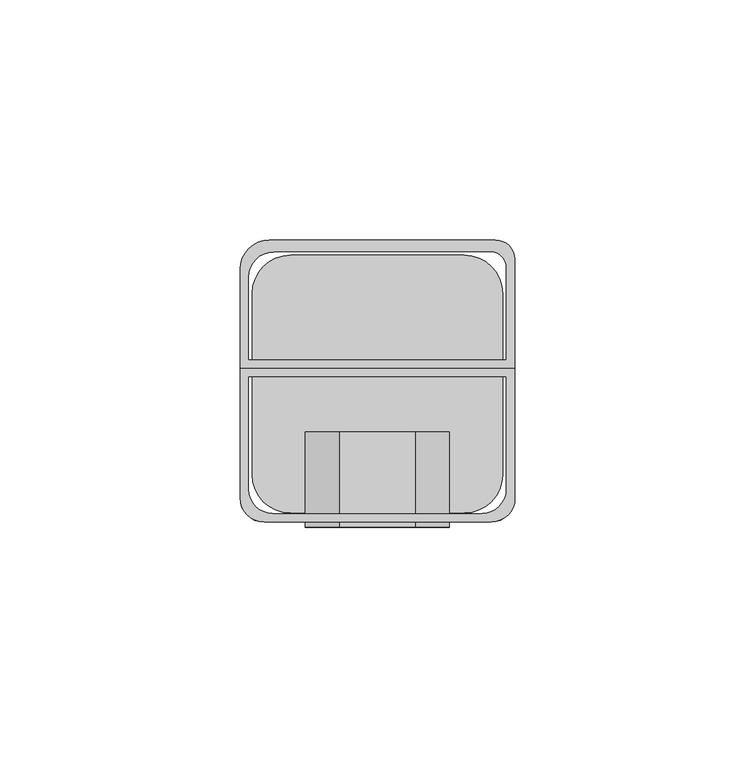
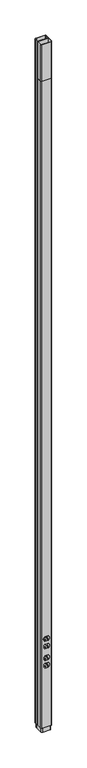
"""IFC4 building model written with IfcOpenShell, lengths in millimetres: proxy geometry, Tele-Power_Poles-Wiremold-Aluminum_Tele-Power_Pole : AMDTP-412 - Aluminum."""

from ifc_helpers import new_model, si_unit, point, frame, frame_2d, origin, origin_with_axes, place, context, project, spatial, polyline, circle_curve, trimmed, segment, composite_curve, outline, extrude, source, transform, mapped, element, save


def electrical_fixtures_7f244660(model_context):
    return source(origin(), model_context, "Body", "SweptSolid", [
        extrude(outline(composite_curve([segment(trimmed(circle_curve(frame_2d((383.1489583, -1.066293)), 13.933707), [point((395.2960251, -7.8924893))], [point((383.1489583, -15.0))], False, "CARTESIAN"), True, "CONTINUOUS"), segment(polyline([(383.1489583, -15.0), (381.2314332, -15.0)]), True, "CONTINUOUS"), segment(trimmed(circle_curve(frame_2d((381.2314332, -0.8980964)), 14.1019036), [point((381.2314332, -15.0))], [point((369.2960251, -8.4087368))], False, "CARTESIAN"), True, "CONTINUOUS"), segment(polyline([(369.2960251, -8.4087368), (369.2960251, 8.5219574)]), True, "CONTINUOUS"), segment(trimmed(circle_curve(frame_2d((381.1036564, 1.0)), 14.0), [point((369.2960251, 8.5219574))], [point((381.1036564, 15.0))], False, "CARTESIAN"), True, "CONTINUOUS"), segment(polyline([(381.1036564, 15.0), (383.1911595, 15.0)]), True, "CONTINUOUS"), segment(trimmed(circle_curve(frame_2d((383.1911595, 1.0137234)), 13.9862766), [point((383.1911595, 15.0))], [point((395.2960251, 8.0200178))], False, "CARTESIAN"), True, "CONTINUOUS"), segment(polyline([(395.2960251, 8.0200178), (395.2960251, -7.8924893)]), True, "CONTINUOUS")], self_intersect=False), holes=[polyline([(381.4352273, -5.4971077), (373.4977273, -5.4971077), (373.4977273, -7.0864631), (381.4352273, -7.0864631), (381.4352273, -5.4971077)]), polyline([(374.2914773, 5.3273064), (380.6414773, 5.3273064), (380.6414773, 6.9135369), (374.2914773, 6.9135369), (374.2914773, 5.3273064)]), composite_curve([segment(polyline([(391.8789773, 2.2744253), (388.7039773, 2.2744253)]), True, "CONTINUOUS"), segment(trimmed(circle_curve(frame_2d((388.7039773, -0.1068247)), 2.38125), [point((388.7039773, 2.2744253))], [point((388.7039773, -2.4880747))], True, "CARTESIAN"), True, "CONTINUOUS"), segment(polyline([(388.7039773, -2.4880747), (391.8789773, -2.4880747), (391.8789773, 2.2744253)]), True, "CONTINUOUS")], self_intersect=False)]), frame((0.0, -29.86875, 0.0), z_axis=(0.0, 1.0, 0.0), x_axis=(0.0, 0.0, 1.0)), (0.0, 0.0, 1.0), 19.8625),
        extrude(outline(composite_curve([segment(polyline([(353.4960251, 8.7277208), (353.4960251, -8.6182874)]), True, "CONTINUOUS"), segment(trimmed(circle_curve(frame_2d((341.791413, -1.0755089)), 13.9244911), [point((353.4960251, -8.6182874))], [point((341.791413, -15.0))], False, "CARTESIAN"), True, "CONTINUOUS"), segment(polyline([(341.791413, -15.0), (339.8667378, -15.0)]), True, "CONTINUOUS"), segment(trimmed(circle_curve(frame_2d((339.8667378, -0.8892045)), 14.1107955), [point((339.8667378, -15.0))], [point((327.4960251, -7.6774309))], False, "CARTESIAN"), True, "CONTINUOUS"), segment(polyline([(327.4960251, -7.6774309), (327.4960251, 7.7995466)]), True, "CONTINUOUS"), segment(trimmed(circle_curve(frame_2d((339.7391341, 0.9911428)), 14.0088572), [point((327.4960251, 7.7995466))], [point((339.7391341, 15.0))], False, "CARTESIAN"), True, "CONTINUOUS"), segment(polyline([(339.7391341, 15.0), (341.8335943, 15.0)]), True, "CONTINUOUS"), segment(trimmed(circle_curve(frame_2d((341.8335943, 1.0215264)), 13.9784736), [point((341.8335943, 15.0))], [point((353.4960251, 8.7277208))], False, "CARTESIAN"), True, "CONTINUOUS")], self_intersect=False), holes=[polyline([(340.0352273, -5.6609185), (332.0977273, -5.6609185), (332.0977273, -7.2502739), (340.0352273, -7.2502739), (340.0352273, -5.6609185)]), polyline([(332.8914773, 5.3273064), (339.2414773, 5.3273064), (339.2414773, 6.9135369), (332.8914773, 6.9135369), (332.8914773, 5.3273064)]), composite_curve([segment(polyline([(350.4789773, 2.2744253), (347.3039773, 2.2744253)]), True, "CONTINUOUS"), segment(trimmed(circle_curve(frame_2d((347.3039773, -0.1068247)), 2.38125), [point((347.3039773, 2.2744253))], [point((347.3039773, -2.4880747))], True, "CARTESIAN"), True, "CONTINUOUS"), segment(polyline([(347.3039773, -2.4880747), (350.4789773, -2.4880747), (350.4789773, 2.2744253)]), True, "CONTINUOUS")], self_intersect=False)]), frame((0.0, -29.86875, 0.0), z_axis=(0.0, 1.0, 0.0), x_axis=(0.0, 0.0, 1.0)), (0.0, 0.0, 1.0), 19.8625),
        extrude(outline(composite_curve([segment(polyline([(28.575, 2.63125), (28.575, -25.36875)]), True, "CONTINUOUS"), segment(trimmed(circle_curve(frame_2d((23.6760205, -24.36875)), 5.0), [point((28.575, -25.36875))], [point((23.6760205, -29.36875))], False, "CARTESIAN"), True, "CONTINUOUS"), segment(polyline([(23.6760205, -29.36875), (-23.575, -29.36875)]), True, "CONTINUOUS"), segment(trimmed(circle_curve(frame_2d((-23.575, -24.36875)), 5.0), [point((-23.575, -29.36875))], [point((-28.575, -24.36875))], False, "CARTESIAN"), True, "CONTINUOUS"), segment(polyline([(-28.575, -24.36875), (-28.575, 2.63125), (28.575, 2.63125)]), True, "CONTINUOUS")], self_intersect=False), holes=[composite_curve([segment(polyline([(-26.775, 0.83125), (-26.775, -22.56875)]), True, "CONTINUOUS"), segment(trimmed(circle_curve(frame_2d((-21.775, -22.56875)), 5.0), [point((-26.775, -22.56875))], [point((-21.775, -27.56875))], True, "CARTESIAN"), True, "CONTINUOUS"), segment(polyline([(-21.775, -27.56875), (21.775, -27.56875)]), True, "CONTINUOUS"), segment(trimmed(circle_curve(frame_2d((21.775, -22.56875)), 5.0), [point((21.775, -27.56875))], [point((26.775, -22.56875))], True, "CARTESIAN"), True, "CONTINUOUS"), segment(polyline([(26.775, -22.56875), (26.775, 0.83125), (-26.775, 0.83125)]), True, "CONTINUOUS")], self_intersect=False)]), frame((0.0, 0.0, 3581.4), z_axis=(0.0, 0.0, 1.0), x_axis=(1.0, 0.0, 0.0)), (0.0, 0.0, 1.0), 203.2),
        extrude(outline(composite_curve([segment(polyline([(28.575, 2.63125), (28.575, -25.36875)]), True, "CONTINUOUS"), segment(trimmed(circle_curve(frame_2d((23.6760205, -24.36875)), 5.0), [point((28.575, -25.36875))], [point((23.6760205, -29.36875))], False, "CARTESIAN"), True, "CONTINUOUS"), segment(polyline([(23.6760205, -29.36875), (-23.575, -29.36875)]), True, "CONTINUOUS"), segment(trimmed(circle_curve(frame_2d((-23.575, -24.36875)), 5.0), [point((-23.575, -29.36875))], [point((-28.575, -24.36875))], False, "CARTESIAN"), True, "CONTINUOUS"), segment(polyline([(-28.575, -24.36875), (-28.575, 2.63125), (28.575, 2.63125)]), True, "CONTINUOUS")], self_intersect=False), holes=[composite_curve([segment(polyline([(-26.775, 0.83125), (-26.775, -22.56875)]), True, "CONTINUOUS"), segment(trimmed(circle_curve(frame_2d((-21.775, -22.56875)), 5.0), [point((-26.775, -22.56875))], [point((-21.775, -27.56875))], True, "CARTESIAN"), True, "CONTINUOUS"), segment(polyline([(-21.775, -27.56875), (21.775, -27.56875)]), True, "CONTINUOUS"), segment(trimmed(circle_curve(frame_2d((21.775, -22.56875)), 5.0), [point((21.775, -27.56875))], [point((26.775, -22.56875))], True, "CARTESIAN"), True, "CONTINUOUS"), segment(polyline([(26.775, -22.56875), (26.775, 0.83125), (-26.775, 0.83125)]), True, "CONTINUOUS")], self_intersect=False)]), origin_with_axes(), (0.0, 0.0, 1.0), 3581.4),
        extrude(outline(composite_curve([segment(trimmed(circle_curve(frame_2d((488.7029331, -1.066293)), 13.933707), [point((500.85, -7.8924893))], [point((488.7029331, -15.0))], False, "CARTESIAN"), True, "CONTINUOUS"), segment(polyline([(488.7029331, -15.0), (486.7854081, -15.0)]), True, "CONTINUOUS"), segment(trimmed(circle_curve(frame_2d((486.7854081, -0.8980964)), 14.1019036), [point((486.7854081, -15.0))], [point((474.85, -8.4087368))], False, "CARTESIAN"), True, "CONTINUOUS"), segment(polyline([(474.85, -8.4087368), (474.85, 8.5219574)]), True, "CONTINUOUS"), segment(trimmed(circle_curve(frame_2d((486.6576313, 1.0)), 14.0), [point((474.85, 8.5219574))], [point((486.6576313, 15.0))], False, "CARTESIAN"), True, "CONTINUOUS"), segment(polyline([(486.6576313, 15.0), (488.7451343, 15.0)]), True, "CONTINUOUS"), segment(trimmed(circle_curve(frame_2d((488.7451343, 1.0137234)), 13.9862766), [point((488.7451343, 15.0))], [point((500.85, 8.0200178))], False, "CARTESIAN"), True, "CONTINUOUS"), segment(polyline([(500.85, 8.0200178), (500.85, -7.8924893)]), True, "CONTINUOUS")], self_intersect=False), holes=[polyline([(486.9892021, -5.4971077), (479.0517021, -5.4971077), (479.0517021, -7.0864631), (486.9892021, -7.0864631), (486.9892021, -5.4971077)]), polyline([(479.8454521, 5.3273064), (486.1954521, 5.3273064), (486.1954521, 6.9135369), (479.8454521, 6.9135369), (479.8454521, 5.3273064)]), composite_curve([segment(polyline([(497.4329521, 2.2744253), (494.2579521, 2.2744253)]), True, "CONTINUOUS"), segment(trimmed(circle_curve(frame_2d((494.2579521, -0.1068247)), 2.38125), [point((494.2579521, 2.2744253))], [point((494.2579521, -2.4880747))], True, "CARTESIAN"), True, "CONTINUOUS"), segment(polyline([(494.2579521, -2.4880747), (497.4329521, -2.4880747), (497.4329521, 2.2744253)]), True, "CONTINUOUS")], self_intersect=False)]), frame((0.0, -29.86875, 0.0), z_axis=(0.0, 1.0, 0.0), x_axis=(0.0, 0.0, 1.0)), (0.0, 0.0, 1.0), 19.8625),
        extrude(outline(composite_curve([segment(polyline([(459.05, 8.7277208), (459.05, -8.6182874)]), True, "CONTINUOUS"), segment(trimmed(circle_curve(frame_2d((447.3453879, -1.0755089)), 13.9244911), [point((459.05, -8.6182874))], [point((447.3453879, -15.0))], False, "CARTESIAN"), True, "CONTINUOUS"), segment(polyline([(447.3453879, -15.0), (445.4207127, -15.0)]), True, "CONTINUOUS"), segment(trimmed(circle_curve(frame_2d((445.4207127, -0.8892045)), 14.1107955), [point((445.4207127, -15.0))], [point((433.05, -7.6774309))], False, "CARTESIAN"), True, "CONTINUOUS"), segment(polyline([(433.05, -7.6774309), (433.05, 7.7995466)]), True, "CONTINUOUS"), segment(trimmed(circle_curve(frame_2d((445.293109, 0.9911428)), 14.0088572), [point((433.05, 7.7995466))], [point((445.293109, 15.0))], False, "CARTESIAN"), True, "CONTINUOUS"), segment(polyline([(445.293109, 15.0), (447.3875692, 15.0)]), True, "CONTINUOUS"), segment(trimmed(circle_curve(frame_2d((447.3875692, 1.0215264)), 13.9784736), [point((447.3875692, 15.0))], [point((459.05, 8.7277208))], False, "CARTESIAN"), True, "CONTINUOUS")], self_intersect=False), holes=[polyline([(445.5892021, -5.6609185), (437.6517021, -5.6609185), (437.6517021, -7.2502739), (445.5892021, -7.2502739), (445.5892021, -5.6609185)]), polyline([(438.4454521, 5.3273064), (444.7954521, 5.3273064), (444.7954521, 6.9135369), (438.4454521, 6.9135369), (438.4454521, 5.3273064)]), composite_curve([segment(polyline([(456.0329521, 2.2744253), (452.8579521, 2.2744253)]), True, "CONTINUOUS"), segment(trimmed(circle_curve(frame_2d((452.8579521, -0.1068247)), 2.38125), [point((452.8579521, 2.2744253))], [point((452.8579521, -2.4880747))], True, "CARTESIAN"), True, "CONTINUOUS"), segment(polyline([(452.8579521, -2.4880747), (456.0329521, -2.4880747), (456.0329521, 2.2744253)]), True, "CONTINUOUS")], self_intersect=False)]), frame((0.0, -29.86875, 0.0), z_axis=(0.0, 1.0, 0.0), x_axis=(0.0, 0.0, 1.0)), (0.0, 0.0, 1.0), 19.8625),
        extrude(outline(composite_curve([segment(trimmed(circle_curve(frame_2d((18.075, 18.86875)), 8.0), [point((18.075, 26.86875))], [point((26.075, 18.86875))], False, "CARTESIAN"), True, "CONTINUOUS"), segment(polyline([(26.075, 18.86875), (26.075, -18.86875)]), True, "CONTINUOUS"), segment(trimmed(circle_curve(frame_2d((18.075, -18.86875)), 8.0), [point((26.075, -18.86875))], [point((18.075, -26.86875))], False, "CARTESIAN"), True, "CONTINUOUS"), segment(polyline([(18.075, -26.86875), (-18.075, -26.86875)]), True, "CONTINUOUS"), segment(trimmed(circle_curve(frame_2d((-18.075, -18.86875)), 8.0), [point((-18.075, -26.86875))], [point((-26.075, -18.86875))], False, "CARTESIAN"), True, "CONTINUOUS"), segment(polyline([(-26.075, -18.86875), (-26.075, 18.86875)]), True, "CONTINUOUS"), segment(trimmed(circle_curve(frame_2d((-18.075, 18.86875)), 8.0), [point((-26.075, 18.86875))], [point((-18.075, 26.86875))], False, "CARTESIAN"), True, "CONTINUOUS"), segment(polyline([(-18.075, 26.86875), (18.075, 26.86875)]), True, "CONTINUOUS")], self_intersect=False)), frame((0.0, 0.0, -25.4), z_axis=(0.0, 0.0, 1.0), x_axis=(1.0, 0.0, 0.0)), (0.0, 0.0, 1.0), 25.4),
        extrude(outline(composite_curve([segment(trimmed(circle_curve(frame_2d((24.575, 25.36875)), 4.0), [point((24.575, 29.36875))], [point((28.575, 25.36875))], False, "CARTESIAN"), True, "CONTINUOUS"), segment(polyline([(28.575, 25.36875), (28.575, 2.63125), (-28.575, 2.63125), (-28.575, 23.31875)]), True, "CONTINUOUS"), segment(trimmed(circle_curve(frame_2d((-22.525, 23.31875)), 6.05), [point((-28.575, 23.31875))], [point((-22.525, 29.36875))], False, "CARTESIAN"), True, "CONTINUOUS"), segment(polyline([(-22.525, 29.36875), (24.575, 29.36875)]), True, "CONTINUOUS")], self_intersect=False), holes=[composite_curve([segment(polyline([(26.775, 4.43125), (26.775, 23.66875)]), True, "CONTINUOUS"), segment(trimmed(circle_curve(frame_2d((23.575, 23.66875)), 3.2), [point((26.775, 23.66875))], [point((23.575, 26.86875))], True, "CARTESIAN"), True, "CONTINUOUS"), segment(polyline([(23.575, 26.86875), (-21.525, 26.86875)]), True, "CONTINUOUS"), segment(trimmed(circle_curve(frame_2d((-21.525, 21.61875)), 5.25), [point((-21.525, 26.86875))], [point((-26.775, 21.61875))], True, "CARTESIAN"), True, "CONTINUOUS"), segment(polyline([(-26.775, 21.61875), (-26.775, 4.43125), (26.775, 4.43125)]), True, "CONTINUOUS")], self_intersect=False)]), origin_with_axes(), (0.0, 0.0, 1.0), 3784.6),
    ])


if __name__ == "__main__":
    model = new_model("IFC4")
    model_context = context("Model", 3, world=origin())
    ifc_project = project(units=[si_unit("LENGTHUNIT", "METRE", prefix="MILLI")], contexts=[model_context])
    site = spatial("IfcSite", under=ifc_project)
    building = spatial("IfcBuilding", under=site)
    placement = place(None, origin())
    electrical_fixtures_shape = electrical_fixtures_7f244660(model_context)
    element("IfcBuildingElementProxy", 1, Name="Tele-Power_Poles-Wiremold-Aluminum_Tele-Power_Pole : AMDTP-412 - Aluminum", ObjectType="Tele-Power_Poles-Wiremold-Aluminum_Tele-Power_Pole : AMDTP-412 - Aluminum", at=placement, inside=building, context=model_context, shape_type="MappedRepresentation", body=[
        mapped(electrical_fixtures_shape, transform((0.0, 0.0, 0.0), x_axis=(1.0, 0.0, 0.0), y_axis=(0.0, 1.0, 0.0), z_axis=(0.0, 0.0, 1.0))),
    ])
    save(model, "model.ifc")
